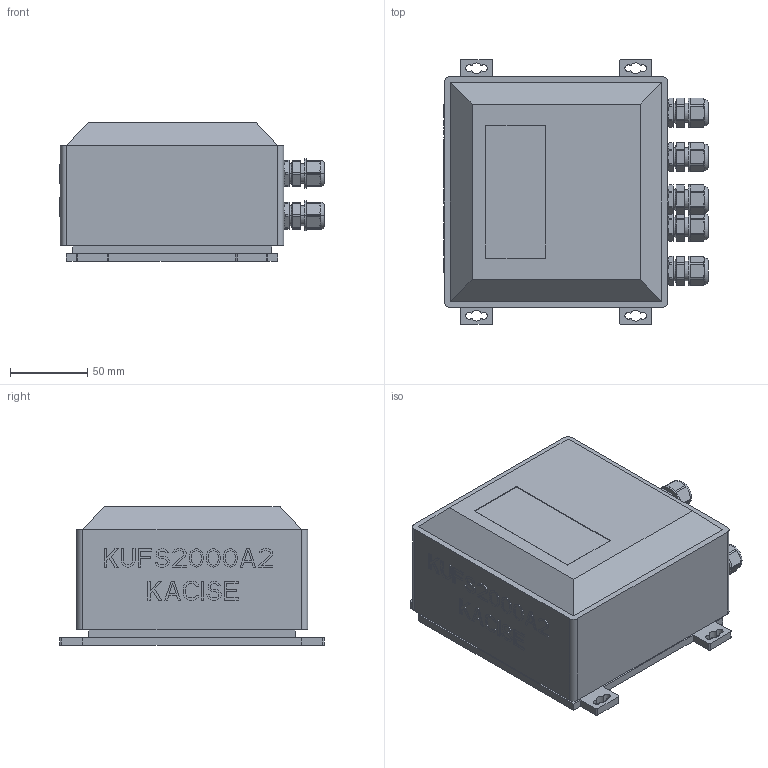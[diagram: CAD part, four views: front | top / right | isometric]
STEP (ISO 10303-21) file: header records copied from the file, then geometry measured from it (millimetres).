
FILE_DESCRIPTION((''),'2;1');
FILE_NAME('ASM0003_ASM','2025-12-30T09:51:00',('28740194'),(''),'CREO PARAMETRIC BY PTC INC, 2024063','CREO PARAMETRIC BY PTC INC, 2024063','');
FILE_SCHEMA(('CONFIG_CONTROL_DESIGN'));
Length unit declared in the file: millimetre
Products named in the file (17): KUFS2000A2; EV214_27005336_DUMMY_MIR; EV214_27005336_02_MIR; EV214_27005336_03_MIR; EV214_27005336_04_MIR; EV214_27005336_06_MIR; EV214_27005336_07_MIR; ASM0003__ASM; EV214_27005336_DUMMY_MIR_MIR; EV214_27005336_02_MIR_MIR; EV214_27005336_03_MIR_MIR; EV214_27005336_04_MIR_MIR; EV214_27005336_06_MIR_MIR; EV214_27005336_07_MIR_MIR; ASM0004_ASM; ASM0005_ASM; ASM0003_ASM
Assembly tree (24 placements, depth 3):
  ASM0003_ASM
    KUFS2000A2
    ASM0003__ASM  x3
      EV214_27005336_DUMMY_MIR
      EV214_27005336_02_MIR
      EV214_27005336_03_MIR
      EV214_27005336_04_MIR
      EV214_27005336_06_MIR
      EV214_27005336_07_MIR
    ASM0004_ASM
      EV214_27005336_DUMMY_MIR_MIR
      EV214_27005336_02_MIR_MIR
      EV214_27005336_03_MIR_MIR
      EV214_27005336_04_MIR_MIR
      EV214_27005336_06_MIR_MIR
      EV214_27005336_07_MIR_MIR
    ASM0005_ASM
      EV214_27005336_DUMMY_MIR_MIR
      EV214_27005336_02_MIR_MIR
      EV214_27005336_03_MIR_MIR
      EV214_27005336_04_MIR_MIR
      EV214_27005336_06_MIR_MIR
      EV214_27005336_07_MIR_MIR
Bounding box: 171.83 x 171.8 x 90 mm (x, y, z)
Volume: 1853991.2 mm3; surface area: 130182.8 mm2
Topology: 26 solids, 46 shells, 1710 faces, 4754 edges, 3176 vertices
Faces by surface type: plane 1272, cylinder 358, cone 50, torus 30
Entity records: 33123 total; most frequent: CARTESIAN_POINT 6039, ORIENTED_EDGE 5600, DIRECTION 5554, EDGE_CURVE 2816, VECTOR 2164, LINE 2164, VERTEX_POINT 1880, AXIS2_PLACEMENT_3D 1695
